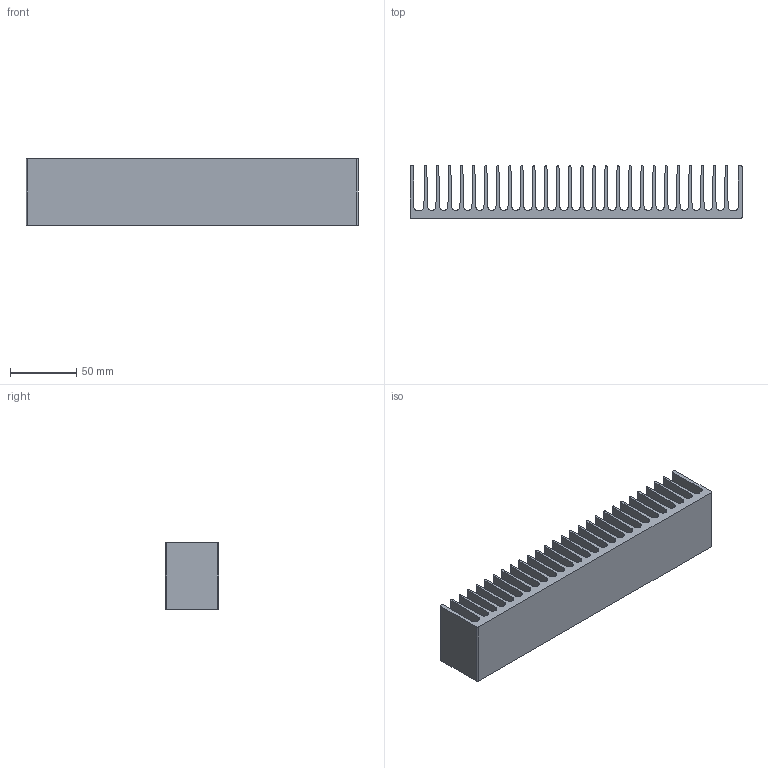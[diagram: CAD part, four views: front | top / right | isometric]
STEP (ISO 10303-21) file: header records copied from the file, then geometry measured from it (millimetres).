
FILE_DESCRIPTION (( 'STEP AP203' ), '1' );
FILE_NAME ('PR 175-50.step', '2002-10-21T08:07:31', ( 'Wolfgang Müller' ), ( 'DPS' ), 'SwSTEP 2.0', 'SolidWorks 2002264', '' );
FILE_SCHEMA (( 'CONFIG_CONTROL_DESIGN' ));
Length unit declared in the file: millimetre
Products named in the file (1): PR 175-50
Bounding box: 250 x 40 x 50 mm (x, y, z)
Volume: 188202.1 mm3; surface area: 122034.1 mm2
Topology: 1 solids, 1 shells, 124 faces, 366 edges, 244 vertices
Faces by surface type: plane 63, cylinder 61
Entity records: 4249 total; most frequent: DIRECTION 738, CARTESIAN_POINT 735, ORIENTED_EDGE 732, EDGE_CURVE 366, AXIS2_PLACEMENT_3D 247, LINE 244, VECTOR 244, VERTEX_POINT 244
